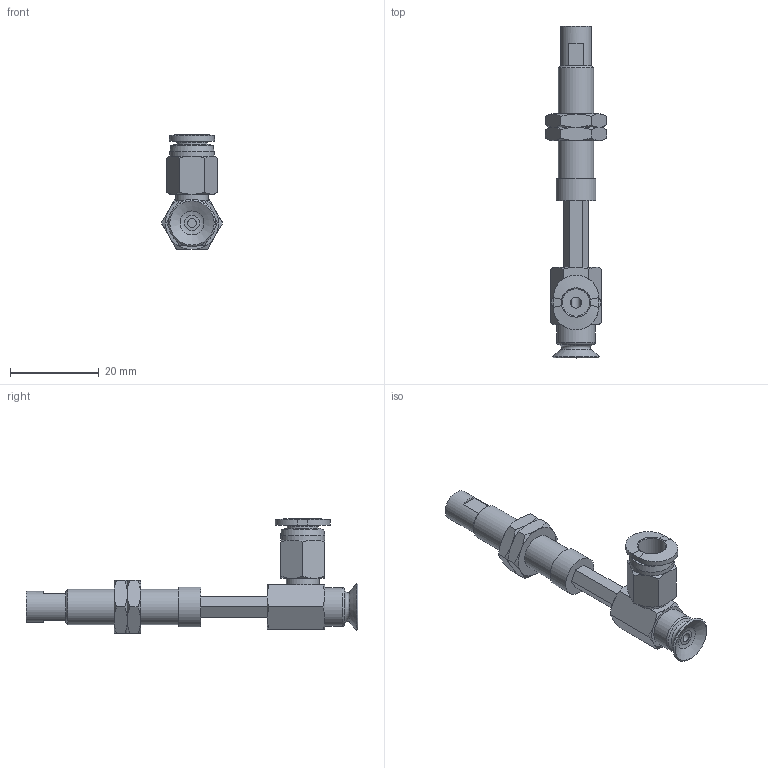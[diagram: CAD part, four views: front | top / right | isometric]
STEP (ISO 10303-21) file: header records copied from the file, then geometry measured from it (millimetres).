
FILE_DESCRIPTION(('STEP AP203'),'1');
FILE_NAME('-O.stp','2025-04-10T07:28:21',(' '),(' '),'Spatial InterOp 3D',' ',' ');
FILE_SCHEMA(('CONFIG_CONTROL_DESIGN'));
Length unit declared in the file: millimetre
Products named in the file (7): BNABPFYH-10A-15-※-O; CONNECTOR-H-10A-15; Nut-10A-15-h; NAPFTH-10A-15-FBODY; NAPFTH-10A-15-MBODY; BPFG-10A-※; PC-C_06-M5
Assembly tree (7 placements, depth 2):
  BNABPFYH-10A-15-※-O
    CONNECTOR-H-10A-15
    Nut-10A-15-h  x2
    NAPFTH-10A-15-FBODY
    NAPFTH-10A-15-MBODY
    BPFG-10A-※
    PC-C_06-M5
Bounding box: 13.86 x 75 x 25.98 mm (x, y, z)
Volume: 3929.4 mm3; surface area: 5938.5 mm2
Topology: 6 solids, 9 shells, 190 faces, 402 edges, 245 vertices
Faces by surface type: plane 81, cone 67, cylinder 24, torus 10, bspline 5, revolution 3
Full cylindrical faces by diameter (mm): 2 x2, 4 x4, 4.134 x2, 5 x2, 6 x2, 7 x2, 7.188 x2, 7.4 x1, 8 x1, 8.2 x1, 8.7 x1, 9 x1, 10 x1
Entity records: 4979 total; most frequent: CARTESIAN_POINT 1401, DIRECTION 663, ORIENTED_EDGE 586, EDGE_CURVE 295, AXIS2_PLACEMENT_3D 283, EDGE_LOOP 244, VERTEX_POINT 207, FACE_OUTER_BOUND 139
